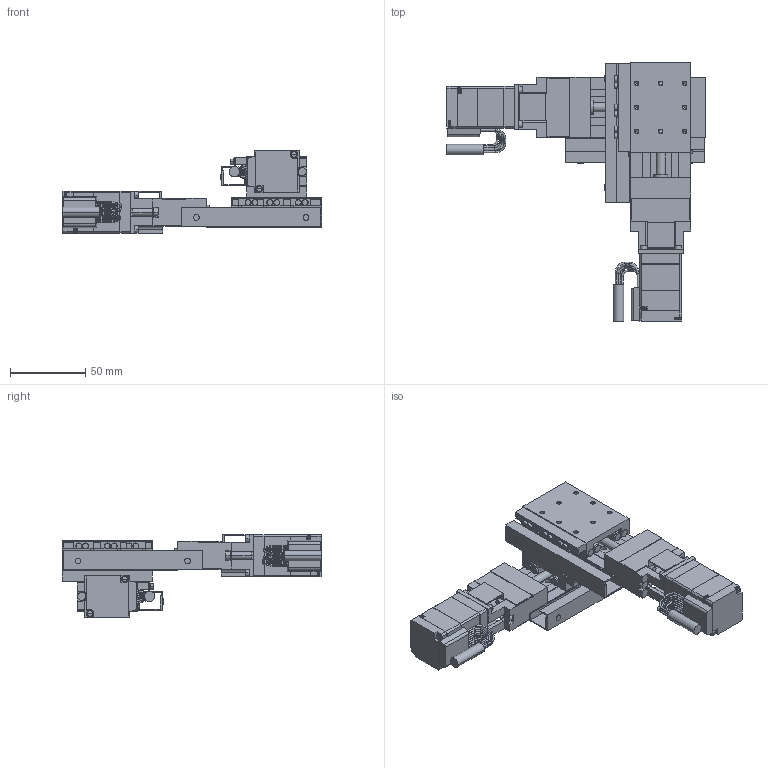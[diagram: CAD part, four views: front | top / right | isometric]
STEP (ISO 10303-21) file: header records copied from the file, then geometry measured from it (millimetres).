
FILE_DESCRIPTION(('STEP AP203'),'1');
FILE_NAME('C:/3D-Trans/3D_PMG430T-L□-PA+240122.step','2024-03-14T08:29:07',(' '),(' '),'Spatial InterOp 3D',' ',' ');
FILE_SCHEMA(('CONFIG_CONTROL_DESIGN'));
Length unit declared in the file: millimetre
Products named in the file (13): 1; 2; 3; 4; 5; 6; 7; 8; 9; 10; 11; 12; 13
Bounding box: 172.9 x 172.9 x 55 mm (x, y, z)
Volume: 235763.7 mm3; surface area: 110336.3 mm2
Topology: 13 solids, 13 shells, 1462 faces, 3814 edges, 2408 vertices
Faces by surface type: plane 768, cylinder 442, torus 128, cone 124
Entity records: 45700 total; most frequent: CARTESIAN_POINT 8157, DIRECTION 8102, ORIENTED_EDGE 7516, EDGE_CURVE 3758, AXIS2_PLACEMENT_3D 2897, VERTEX_POINT 2408, LINE 2308, VECTOR 2308
